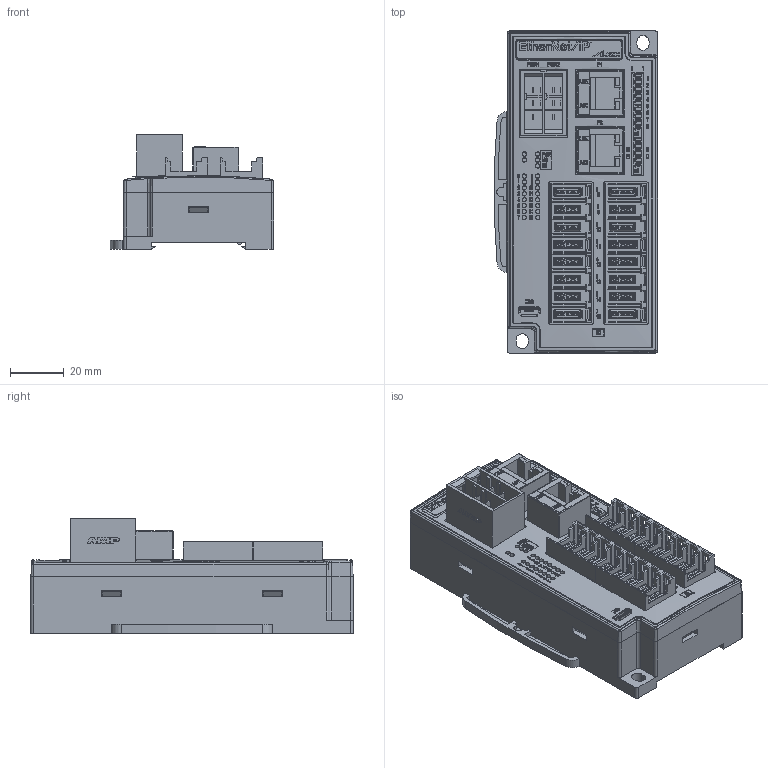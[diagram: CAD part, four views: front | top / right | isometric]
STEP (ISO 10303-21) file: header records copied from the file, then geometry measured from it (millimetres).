
FILE_DESCRIPTION((''),'2;1');
FILE_NAME('EIEPF0','2026-05-11T15:36:21',('gijyu181'),(''),'CREO PARAMETRIC BY PTC INC, 2018050','CREO PARAMETRIC BY PTC INC, 2018050','');
FILE_SCHEMA(('CONFIG_CONTROL_DESIGN','SHAPE_APPEARANCE_LAYERS_GROUPS'));
Products named in the file (1): EIEPF0
Bounding box: 60.87 x 120 x 42.6 mm (x, y, z)
Volume: 156781.9 mm3; surface area: 65218.4 mm2
Topology: 5 solids, 50 shells, 9442 faces, 26856 edges, 17887 vertices
Faces by surface type: plane 7409, extrusion 1217, cylinder 682, bspline 69, cone 41, torus 20, sphere 4
Entity records: 393784 total; most frequent: CARTESIAN_POINT 87295, ORIENTED_EDGE 53712, DIRECTION 42815, EDGE_CURVE 26856, VECTOR 23319, LINE 22102, VERTEX_POINT 17887, EDGE_LOOP 10455
